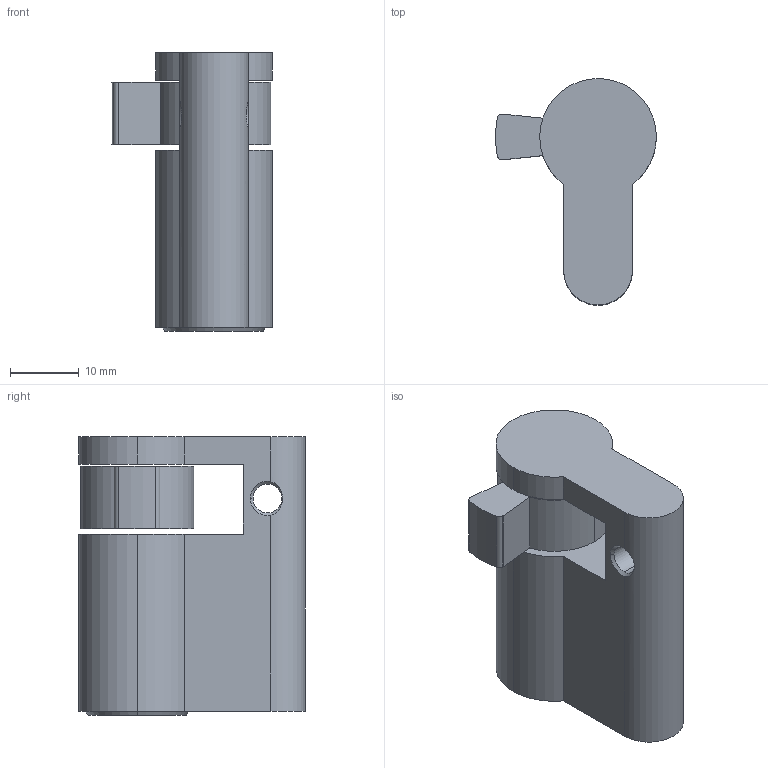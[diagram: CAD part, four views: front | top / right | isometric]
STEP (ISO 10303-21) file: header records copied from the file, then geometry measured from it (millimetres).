
FILE_DESCRIPTION (( 'STEP AP214' ), '1' );
FILE_NAME ('WRS-B.001.STEP', '2016-08-18T12:03:37', ( 'RST-Dolba' ), ( '' ), 'SwSTEP 2.0', 'SolidWorks 2015', '' );
FILE_SCHEMA (( 'AUTOMOTIVE_DESIGN' ));
Length unit declared in the file: millimetre
Products named in the file (3): WRS-B.001; wk³adka GAmet_GAMET; wk³adka GAmet zabierak
Assembly tree (3 placements, depth 2):
  WRS-B.001
    wk³adka GAmet_GAMET
    wk³adka GAmet zabierak  x2
Bounding box: 23.42 x 33 x 40.6 mm (x, y, z)
Volume: 16224.2 mm3; surface area: 6826.8 mm2
Topology: 3 solids, 3 shells, 69 faces, 189 edges, 126 vertices
Faces by surface type: plane 36, cylinder 27, cone 6
Entity records: 1974 total; most frequent: CARTESIAN_POINT 370, DIRECTION 324, ORIENTED_EDGE 312, EDGE_CURVE 156, AXIS2_PLACEMENT_3D 110, VECTOR 104, LINE 104, VERTEX_POINT 104
